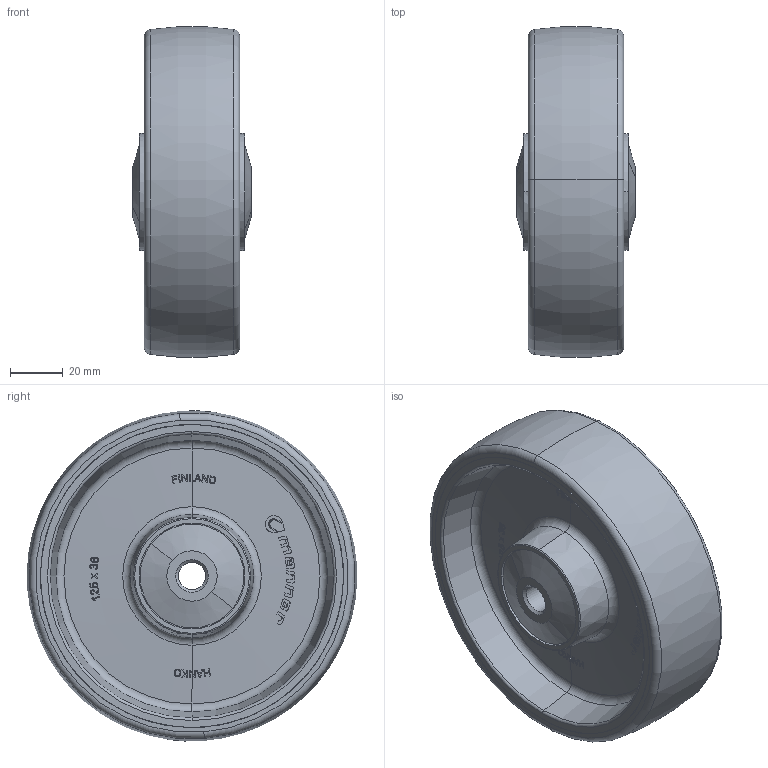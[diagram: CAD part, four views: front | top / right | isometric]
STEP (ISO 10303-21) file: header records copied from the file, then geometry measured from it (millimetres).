
FILE_DESCRIPTION (( 'STEP AP203' ), '1' );
FILE_NAME ('400103_STEP.STEP', '2011-08-29T07:02:56', ( '' ), ( '' ), 'SwSTEP 2.0', 'SolidWorks 2011', '' );
FILE_SCHEMA (( 'CONFIG_CONTROL_DESIGN' ));
Length unit declared in the file: millimetre
Products named in the file (1): 400103_STEP
Bounding box: 44.6 x 124.69 x 124.69 mm (x, y, z)
Surface area: 76805.3 mm2 (no closed solid volume)
Topology: 0 solids, 5 shells, 256 faces, 1068 edges, 764 vertices
Faces by surface type: plane 102, cone 62, cylinder 37, bspline 33, torus 22
Entity records: 13932 total; most frequent: CARTESIAN_POINT 6703, ORIENTED_EDGE 1572, EDGE_CURVE 1068, DIRECTION 950, VERTEX_POINT 764, B_SPLINE_CURVE_WITH_KNOTS 676, AXIS2_PLACEMENT_3D 334, EDGE_LOOP 297
